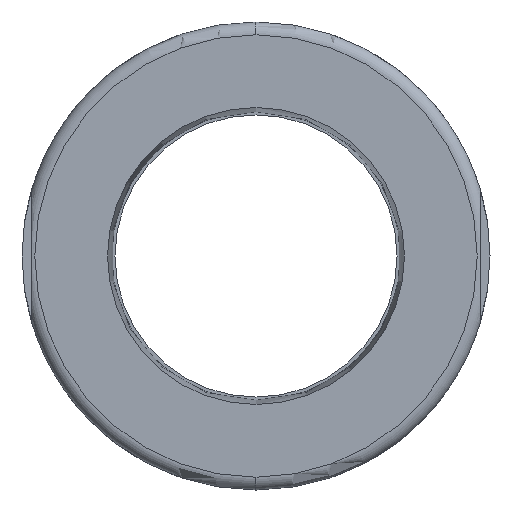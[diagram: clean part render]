
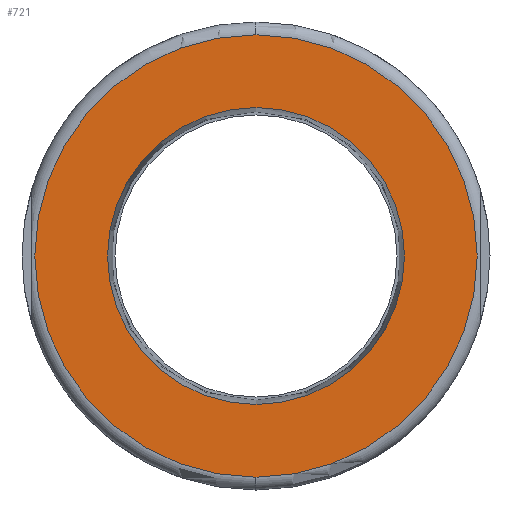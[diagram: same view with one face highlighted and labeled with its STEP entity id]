
A CAD part, left-side view. The second image highlights one B-rep face of the part: STEP entity #721.
In plain terms, the highlighted planar face has unit normal (-1, 0, 0).
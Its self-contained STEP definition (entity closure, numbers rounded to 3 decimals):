
#29 = EDGE_CURVE ( 'NONE', #269, #283, #660, .T. ) ;
#32 = EDGE_CURVE ( 'NONE', #283, #269, #654, .T. ) ;
#41 = EDGE_CURVE ( 'NONE', #246, #265, #641, .T. ) ;
#137 = AXIS2_PLACEMENT_3D ( 'NONE', #1081, #1089, #1090 ) ;
#184 = EDGE_CURVE ( 'NONE', #265, #246, #631, .T. ) ;
#246 = VERTEX_POINT ( 'NONE', #946 ) ;
#265 = VERTEX_POINT ( 'NONE', #962 ) ;
#269 = VERTEX_POINT ( 'NONE', #966 ) ;
#283 = VERTEX_POINT ( 'NONE', #980 ) ;
#295 = EDGE_LOOP ( 'NONE', ( #1228, #1264 ) ) ;
#303 = EDGE_LOOP ( 'NONE', ( #1265, #1262 ) ) ;
#412 = CARTESIAN_POINT ( 'NONE',  ( -92.5, 0., 0. ) ) ;
#413 = DIRECTION ( 'NONE',  ( -1., 0., 0. ) ) ;
#414 = DIRECTION ( 'NONE',  ( 0., 0., 1. ) ) ;
#424 = CARTESIAN_POINT ( 'NONE',  ( -92.5, 0., 0. ) ) ;
#425 = DIRECTION ( 'NONE',  ( -1., 0., 0. ) ) ;
#426 = DIRECTION ( 'NONE',  ( 0., 0., 1. ) ) ;
#448 = CARTESIAN_POINT ( 'NONE',  ( -92.5, 0., 0. ) ) ;
#449 = DIRECTION ( 'NONE',  ( -1., 0., 0. ) ) ;
#450 = DIRECTION ( 'NONE',  ( 0., 0., 1. ) ) ;
#571 = CARTESIAN_POINT ( 'NONE',  ( -92.5, 0., 0. ) ) ;
#572 = DIRECTION ( 'NONE',  ( -1., 0., 0. ) ) ;
#573 = DIRECTION ( 'NONE',  ( 0., 0., 1. ) ) ;
#615 = AXIS2_PLACEMENT_3D ( 'NONE', #571, #572, #573 ) ;
#631 = CIRCLE ( 'NONE', #615, 34.5 ) ;
#634 = AXIS2_PLACEMENT_3D ( 'NONE', #448, #449, #450 ) ;
#641 = CIRCLE ( 'NONE', #634, 34.5 ) ;
#650 = AXIS2_PLACEMENT_3D ( 'NONE', #424, #425, #426 ) ;
#654 = CIRCLE ( 'NONE', #650, 23.162 ) ;
#657 = AXIS2_PLACEMENT_3D ( 'NONE', #412, #413, #414 ) ;
#660 = CIRCLE ( 'NONE', #657, 23.162 ) ;
#721 = ADVANCED_FACE ( 'NONE', ( #1085, #1086 ), #1087, .T. ) ;
#946 = CARTESIAN_POINT ( 'NONE',  ( -92.5, 0., 34.5 ) ) ;
#962 = CARTESIAN_POINT ( 'NONE',  ( -92.5, 0., -34.5 ) ) ;
#966 = CARTESIAN_POINT ( 'NONE',  ( -92.5, 0., -23.162 ) ) ;
#980 = CARTESIAN_POINT ( 'NONE',  ( -92.5, 0., 23.162 ) ) ;
#1081 = CARTESIAN_POINT ( 'NONE',  ( -92.5, 0., -18.75 ) ) ;
#1085 = FACE_BOUND ( 'NONE', #295, .T. ) ;
#1086 = FACE_OUTER_BOUND ( 'NONE', #303, .T. ) ;
#1087 = PLANE ( 'NONE',  #137 ) ;
#1089 = DIRECTION ( 'NONE',  ( -1., 0., 0. ) ) ;
#1090 = DIRECTION ( 'NONE',  ( 0., 0., 1. ) ) ;
#1228 = ORIENTED_EDGE ( 'NONE', *, *, #32, .F. ) ;
#1262 = ORIENTED_EDGE ( 'NONE', *, *, #184, .T. ) ;
#1264 = ORIENTED_EDGE ( 'NONE', *, *, #29, .F. ) ;
#1265 = ORIENTED_EDGE ( 'NONE', *, *, #41, .T. ) ;
